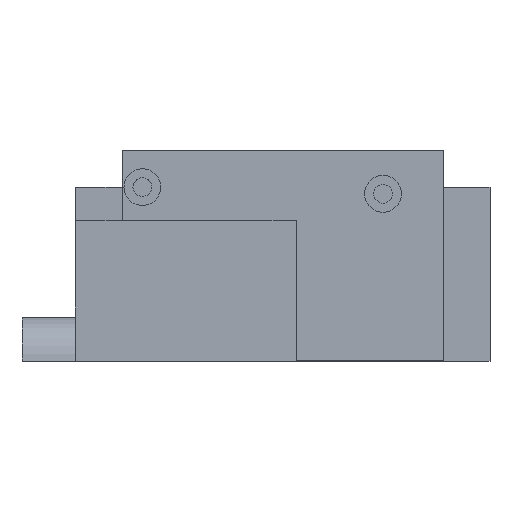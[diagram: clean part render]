
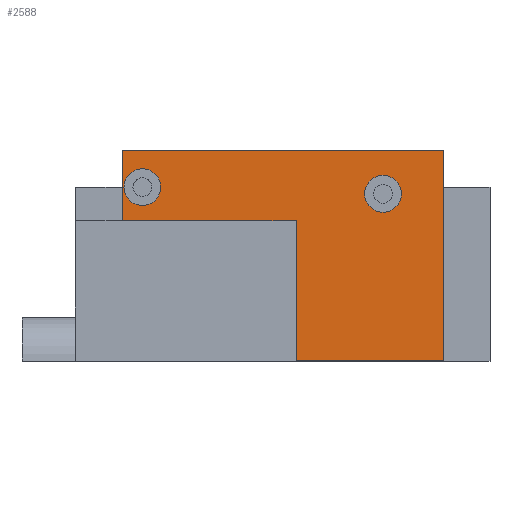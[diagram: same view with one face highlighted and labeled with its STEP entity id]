
A CAD part, top view. The second image highlights one B-rep face of the part: STEP entity #2588.
In plain terms, the highlighted planar face has unit normal (0, 0, 1).
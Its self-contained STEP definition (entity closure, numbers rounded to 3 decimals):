
#44 = PLANE('',#45);
#45 = AXIS2_PLACEMENT_3D('',#46,#47,#48);
#46 = CARTESIAN_POINT('',(-48.,-63.,714.));
#47 = DIRECTION('',(1.,0.,-0.));
#48 = DIRECTION('',(0.,0.,1.));
#182 = PLANE('',#183);
#183 = AXIS2_PLACEMENT_3D('',#184,#185,#186);
#184 = CARTESIAN_POINT('',(-400.,0.,0.));
#185 = DIRECTION('',(-0.,1.,0.));
#186 = DIRECTION('',(0.,0.,1.));
#265 = PLANE('',#266);
#266 = AXIS2_PLACEMENT_3D('',#267,#268,#269);
#267 = CARTESIAN_POINT('',(48.,-63.,714.));
#268 = DIRECTION('',(1.,0.,-0.));
#269 = DIRECTION('',(0.,0.,1.));
#291 = PLANE('',#292);
#292 = AXIS2_PLACEMENT_3D('',#293,#294,#295);
#293 = CARTESIAN_POINT('',(-48.,63.,714.));
#294 = DIRECTION('',(-0.,1.,0.));
#295 = DIRECTION('',(0.,0.,1.));
#412 = EDGE_CURVE('',#413,#415,#417,.T.);
#413 = VERTEX_POINT('',#414);
#414 = CARTESIAN_POINT('',(-48.,42.,786.));
#415 = VERTEX_POINT('',#416);
#416 = CARTESIAN_POINT('',(-48.,63.,786.));
#417 = SURFACE_CURVE('',#418,(#422,#429),.PCURVE_S1.);
#418 = LINE('',#419,#420);
#419 = CARTESIAN_POINT('',(-48.,-63.,786.));
#420 = VECTOR('',#421,1.);
#421 = DIRECTION('',(-0.,1.,0.));
#422 = PCURVE('',#44,#423);
#423 = DEFINITIONAL_REPRESENTATION('',(#424),#428);
#424 = LINE('',#425,#426);
#425 = CARTESIAN_POINT('',(72.,0.));
#426 = VECTOR('',#427,1.);
#427 = DIRECTION('',(0.,-1.));
#428 = ( GEOMETRIC_REPRESENTATION_CONTEXT(2) 
PARAMETRIC_REPRESENTATION_CONTEXT() REPRESENTATION_CONTEXT('2D SPACE',''
  ) );
#429 = PCURVE('',#430,#435);
#430 = PLANE('',#431);
#431 = AXIS2_PLACEMENT_3D('',#432,#433,#434);
#432 = CARTESIAN_POINT('',(-48.,-63.,786.));
#433 = DIRECTION('',(0.,0.,1.));
#434 = DIRECTION('',(1.,0.,-0.));
#435 = DEFINITIONAL_REPRESENTATION('',(#436),#440);
#436 = LINE('',#437,#438);
#437 = CARTESIAN_POINT('',(0.,0.));
#438 = VECTOR('',#439,1.);
#439 = DIRECTION('',(0.,1.));
#440 = ( GEOMETRIC_REPRESENTATION_CONTEXT(2) 
PARAMETRIC_REPRESENTATION_CONTEXT() REPRESENTATION_CONTEXT('2D SPACE',''
  ) );
#457 = PLANE('',#458);
#458 = AXIS2_PLACEMENT_3D('',#459,#460,#461);
#459 = CARTESIAN_POINT('',(-90.,42.,759.));
#460 = DIRECTION('',(-0.,1.,0.));
#461 = DIRECTION('',(0.,0.,1.));
#540 = EDGE_CURVE('',#415,#541,#543,.T.);
#541 = VERTEX_POINT('',#542);
#542 = CARTESIAN_POINT('',(48.,63.,786.));
#543 = SURFACE_CURVE('',#544,(#548,#555),.PCURVE_S1.);
#544 = LINE('',#545,#546);
#545 = CARTESIAN_POINT('',(-48.,63.,786.));
#546 = VECTOR('',#547,1.);
#547 = DIRECTION('',(1.,0.,-0.));
#548 = PCURVE('',#291,#549);
#549 = DEFINITIONAL_REPRESENTATION('',(#550),#554);
#550 = LINE('',#551,#552);
#551 = CARTESIAN_POINT('',(72.,0.));
#552 = VECTOR('',#553,1.);
#553 = DIRECTION('',(0.,1.));
#554 = ( GEOMETRIC_REPRESENTATION_CONTEXT(2) 
PARAMETRIC_REPRESENTATION_CONTEXT() REPRESENTATION_CONTEXT('2D SPACE',''
  ) );
#555 = PCURVE('',#430,#556);
#556 = DEFINITIONAL_REPRESENTATION('',(#557),#561);
#557 = LINE('',#558,#559);
#558 = CARTESIAN_POINT('',(0.,126.));
#559 = VECTOR('',#560,1.);
#560 = DIRECTION('',(1.,0.));
#561 = ( GEOMETRIC_REPRESENTATION_CONTEXT(2) 
PARAMETRIC_REPRESENTATION_CONTEXT() REPRESENTATION_CONTEXT('2D SPACE',''
  ) );
#587 = EDGE_CURVE('',#588,#541,#590,.T.);
#588 = VERTEX_POINT('',#589);
#589 = CARTESIAN_POINT('',(48.,0.,786.));
#590 = SURFACE_CURVE('',#591,(#595,#602),.PCURVE_S1.);
#591 = LINE('',#592,#593);
#592 = CARTESIAN_POINT('',(48.,-63.,786.));
#593 = VECTOR('',#594,1.);
#594 = DIRECTION('',(-0.,1.,0.));
#595 = PCURVE('',#265,#596);
#596 = DEFINITIONAL_REPRESENTATION('',(#597),#601);
#597 = LINE('',#598,#599);
#598 = CARTESIAN_POINT('',(72.,0.));
#599 = VECTOR('',#600,1.);
#600 = DIRECTION('',(0.,-1.));
#601 = ( GEOMETRIC_REPRESENTATION_CONTEXT(2) 
PARAMETRIC_REPRESENTATION_CONTEXT() REPRESENTATION_CONTEXT('2D SPACE',''
  ) );
#602 = PCURVE('',#430,#603);
#603 = DEFINITIONAL_REPRESENTATION('',(#604),#608);
#604 = LINE('',#605,#606);
#605 = CARTESIAN_POINT('',(96.,0.));
#606 = VECTOR('',#607,1.);
#607 = DIRECTION('',(0.,1.));
#608 = ( GEOMETRIC_REPRESENTATION_CONTEXT(2) 
PARAMETRIC_REPRESENTATION_CONTEXT() REPRESENTATION_CONTEXT('2D SPACE',''
  ) );
#1693 = VERTEX_POINT('',#1694);
#1694 = CARTESIAN_POINT('',(4.,0.,786.));
#1707 = PLANE('',#1708);
#1708 = AXIS2_PLACEMENT_3D('',#1709,#1710,#1711);
#1709 = CARTESIAN_POINT('',(4.,-42.,759.));
#1710 = DIRECTION('',(1.,0.,-0.));
#1711 = DIRECTION('',(0.,0.,1.));
#1718 = EDGE_CURVE('',#588,#1693,#1719,.T.);
#1719 = SURFACE_CURVE('',#1720,(#1724,#1730),.PCURVE_S1.);
#1720 = LINE('',#1721,#1722);
#1721 = CARTESIAN_POINT('',(-224.,0.,786.));
#1722 = VECTOR('',#1723,1.);
#1723 = DIRECTION('',(-1.,-0.,0.));
#1724 = PCURVE('',#182,#1725);
#1725 = DEFINITIONAL_REPRESENTATION('',(#1726),#1729);
#1726 = B_SPLINE_CURVE_WITH_KNOTS('',1,(#1727,#1728),.UNSPECIFIED.,.F.,
  .F.,(2,2),(-272.,-176.),.PIECEWISE_BEZIER_KNOTS.);
#1727 = CARTESIAN_POINT('',(786.,448.));
#1728 = CARTESIAN_POINT('',(786.,352.));
#1729 = ( GEOMETRIC_REPRESENTATION_CONTEXT(2) 
PARAMETRIC_REPRESENTATION_CONTEXT() REPRESENTATION_CONTEXT('2D SPACE',''
  ) );
#1730 = PCURVE('',#430,#1731);
#1731 = DEFINITIONAL_REPRESENTATION('',(#1732),#1735);
#1732 = B_SPLINE_CURVE_WITH_KNOTS('',1,(#1733,#1734),.UNSPECIFIED.,.F.,
  .F.,(2,2),(-272.,-176.),.PIECEWISE_BEZIER_KNOTS.);
#1733 = CARTESIAN_POINT('',(96.,63.));
#1734 = CARTESIAN_POINT('',(0.,63.));
#1735 = ( GEOMETRIC_REPRESENTATION_CONTEXT(2) 
PARAMETRIC_REPRESENTATION_CONTEXT() REPRESENTATION_CONTEXT('2D SPACE',''
  ) );
#2588 = ADVANCED_FACE('',(#2589,#2635,#2666),#430,.T.);
#2589 = FACE_BOUND('',#2590,.T.);
#2590 = EDGE_LOOP('',(#2591,#2592,#2593,#2594,#2595,#2616));
#2591 = ORIENTED_EDGE('',*,*,#1718,.F.);
#2592 = ORIENTED_EDGE('',*,*,#587,.T.);
#2593 = ORIENTED_EDGE('',*,*,#540,.F.);
#2594 = ORIENTED_EDGE('',*,*,#412,.F.);
#2595 = ORIENTED_EDGE('',*,*,#2596,.F.);
#2596 = EDGE_CURVE('',#2597,#413,#2599,.T.);
#2597 = VERTEX_POINT('',#2598);
#2598 = CARTESIAN_POINT('',(4.,42.,786.));
#2599 = SURFACE_CURVE('',#2600,(#2604,#2610),.PCURVE_S1.);
#2600 = LINE('',#2601,#2602);
#2601 = CARTESIAN_POINT('',(-69.,42.,786.));
#2602 = VECTOR('',#2603,1.);
#2603 = DIRECTION('',(-1.,-0.,0.));
#2604 = PCURVE('',#430,#2605);
#2605 = DEFINITIONAL_REPRESENTATION('',(#2606),#2609);
#2606 = B_SPLINE_CURVE_WITH_KNOTS('',1,(#2607,#2608),.UNSPECIFIED.,.F.,
  .F.,(2,2),(-73.,-21.),.PIECEWISE_BEZIER_KNOTS.);
#2607 = CARTESIAN_POINT('',(52.,105.));
#2608 = CARTESIAN_POINT('',(0.,105.));
#2609 = ( GEOMETRIC_REPRESENTATION_CONTEXT(2) 
PARAMETRIC_REPRESENTATION_CONTEXT() REPRESENTATION_CONTEXT('2D SPACE',''
  ) );
#2610 = PCURVE('',#457,#2611);
#2611 = DEFINITIONAL_REPRESENTATION('',(#2612),#2615);
#2612 = B_SPLINE_CURVE_WITH_KNOTS('',1,(#2613,#2614),.UNSPECIFIED.,.F.,
  .F.,(2,2),(-73.,-21.),.PIECEWISE_BEZIER_KNOTS.);
#2613 = CARTESIAN_POINT('',(27.,94.));
#2614 = CARTESIAN_POINT('',(27.,42.));
#2615 = ( GEOMETRIC_REPRESENTATION_CONTEXT(2) 
PARAMETRIC_REPRESENTATION_CONTEXT() REPRESENTATION_CONTEXT('2D SPACE',''
  ) );
#2616 = ORIENTED_EDGE('',*,*,#2617,.F.);
#2617 = EDGE_CURVE('',#1693,#2597,#2618,.T.);
#2618 = SURFACE_CURVE('',#2619,(#2623,#2629),.PCURVE_S1.);
#2619 = LINE('',#2620,#2621);
#2620 = CARTESIAN_POINT('',(4.,-52.5,786.));
#2621 = VECTOR('',#2622,1.);
#2622 = DIRECTION('',(-0.,1.,0.));
#2623 = PCURVE('',#430,#2624);
#2624 = DEFINITIONAL_REPRESENTATION('',(#2625),#2628);
#2625 = B_SPLINE_CURVE_WITH_KNOTS('',1,(#2626,#2627),.UNSPECIFIED.,.F.,
  .F.,(2,2),(10.5,94.5),.PIECEWISE_BEZIER_KNOTS.);
#2626 = CARTESIAN_POINT('',(52.,21.));
#2627 = CARTESIAN_POINT('',(52.,105.));
#2628 = ( GEOMETRIC_REPRESENTATION_CONTEXT(2) 
PARAMETRIC_REPRESENTATION_CONTEXT() REPRESENTATION_CONTEXT('2D SPACE',''
  ) );
#2629 = PCURVE('',#1707,#2630);
#2630 = DEFINITIONAL_REPRESENTATION('',(#2631),#2634);
#2631 = B_SPLINE_CURVE_WITH_KNOTS('',1,(#2632,#2633),.UNSPECIFIED.,.F.,
  .F.,(2,2),(10.5,94.5),.PIECEWISE_BEZIER_KNOTS.);
#2632 = CARTESIAN_POINT('',(27.,0.));
#2633 = CARTESIAN_POINT('',(27.,-84.));
#2634 = ( GEOMETRIC_REPRESENTATION_CONTEXT(2) 
PARAMETRIC_REPRESENTATION_CONTEXT() REPRESENTATION_CONTEXT('2D SPACE',''
  ) );
#2635 = FACE_BOUND('',#2636,.T.);
#2636 = EDGE_LOOP('',(#2637));
#2637 = ORIENTED_EDGE('',*,*,#2638,.F.);
#2638 = EDGE_CURVE('',#2639,#2639,#2641,.T.);
#2639 = VERTEX_POINT('',#2640);
#2640 = CARTESIAN_POINT('',(-36.5,52.,786.));
#2641 = SURFACE_CURVE('',#2642,(#2647,#2654),.PCURVE_S1.);
#2642 = CIRCLE('',#2643,5.5);
#2643 = AXIS2_PLACEMENT_3D('',#2644,#2645,#2646);
#2644 = CARTESIAN_POINT('',(-42.,52.,786.));
#2645 = DIRECTION('',(0.,0.,1.));
#2646 = DIRECTION('',(1.,0.,-0.));
#2647 = PCURVE('',#430,#2648);
#2648 = DEFINITIONAL_REPRESENTATION('',(#2649),#2653);
#2649 = CIRCLE('',#2650,5.5);
#2650 = AXIS2_PLACEMENT_2D('',#2651,#2652);
#2651 = CARTESIAN_POINT('',(6.,115.));
#2652 = DIRECTION('',(1.,0.));
#2653 = ( GEOMETRIC_REPRESENTATION_CONTEXT(2) 
PARAMETRIC_REPRESENTATION_CONTEXT() REPRESENTATION_CONTEXT('2D SPACE',''
  ) );
#2654 = PCURVE('',#2655,#2660);
#2655 = CYLINDRICAL_SURFACE('',#2656,5.5);
#2656 = AXIS2_PLACEMENT_3D('',#2657,#2658,#2659);
#2657 = CARTESIAN_POINT('',(-42.,52.,785.));
#2658 = DIRECTION('',(0.,0.,1.));
#2659 = DIRECTION('',(1.,0.,0.));
#2660 = DEFINITIONAL_REPRESENTATION('',(#2661),#2665);
#2661 = LINE('',#2662,#2663);
#2662 = CARTESIAN_POINT('',(0.,1.));
#2663 = VECTOR('',#2664,1.);
#2664 = DIRECTION('',(1.,0.));
#2665 = ( GEOMETRIC_REPRESENTATION_CONTEXT(2) 
PARAMETRIC_REPRESENTATION_CONTEXT() REPRESENTATION_CONTEXT('2D SPACE',''
  ) );
#2666 = FACE_BOUND('',#2667,.T.);
#2667 = EDGE_LOOP('',(#2668));
#2668 = ORIENTED_EDGE('',*,*,#2669,.F.);
#2669 = EDGE_CURVE('',#2670,#2670,#2672,.T.);
#2670 = VERTEX_POINT('',#2671);
#2671 = CARTESIAN_POINT('',(35.5,50.,786.));
#2672 = SURFACE_CURVE('',#2673,(#2678,#2685),.PCURVE_S1.);
#2673 = CIRCLE('',#2674,5.5);
#2674 = AXIS2_PLACEMENT_3D('',#2675,#2676,#2677);
#2675 = CARTESIAN_POINT('',(30.,50.,786.));
#2676 = DIRECTION('',(0.,0.,1.));
#2677 = DIRECTION('',(1.,0.,-0.));
#2678 = PCURVE('',#430,#2679);
#2679 = DEFINITIONAL_REPRESENTATION('',(#2680),#2684);
#2680 = CIRCLE('',#2681,5.5);
#2681 = AXIS2_PLACEMENT_2D('',#2682,#2683);
#2682 = CARTESIAN_POINT('',(78.,113.));
#2683 = DIRECTION('',(1.,0.));
#2684 = ( GEOMETRIC_REPRESENTATION_CONTEXT(2) 
PARAMETRIC_REPRESENTATION_CONTEXT() REPRESENTATION_CONTEXT('2D SPACE',''
  ) );
#2685 = PCURVE('',#2686,#2691);
#2686 = CYLINDRICAL_SURFACE('',#2687,5.5);
#2687 = AXIS2_PLACEMENT_3D('',#2688,#2689,#2690);
#2688 = CARTESIAN_POINT('',(30.,50.,785.));
#2689 = DIRECTION('',(0.,0.,1.));
#2690 = DIRECTION('',(1.,0.,0.));
#2691 = DEFINITIONAL_REPRESENTATION('',(#2692),#2696);
#2692 = LINE('',#2693,#2694);
#2693 = CARTESIAN_POINT('',(0.,1.));
#2694 = VECTOR('',#2695,1.);
#2695 = DIRECTION('',(1.,0.));
#2696 = ( GEOMETRIC_REPRESENTATION_CONTEXT(2) 
PARAMETRIC_REPRESENTATION_CONTEXT() REPRESENTATION_CONTEXT('2D SPACE',''
  ) );
